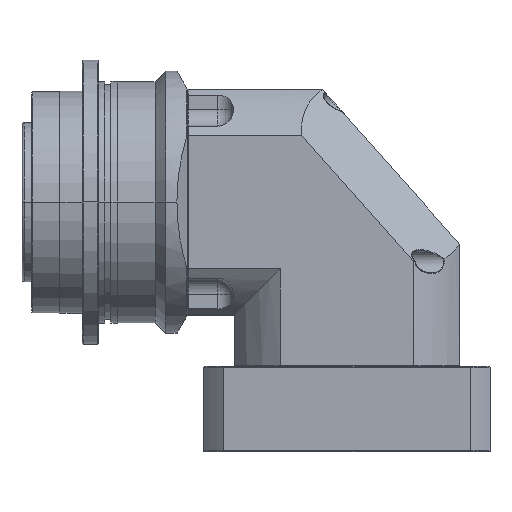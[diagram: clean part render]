
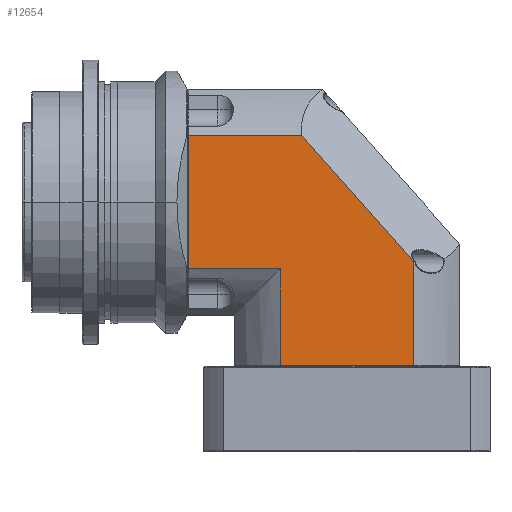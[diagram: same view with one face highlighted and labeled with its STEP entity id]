
A CAD part, top view. The second image highlights one B-rep face of the part: STEP entity #12654.
In plain terms, the highlighted planar face has unit normal (0, 0, 1).
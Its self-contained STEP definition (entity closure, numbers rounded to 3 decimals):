
#190 = VECTOR ( 'NONE', #5766, 1000. ) ;
#292 = DIRECTION ( 'NONE',  ( -1., 0., 0. ) ) ;
#388 = PLANE ( 'NONE',  #9574 ) ;
#499 = DIRECTION ( 'NONE',  ( 0., 0., -1. ) ) ;
#514 = VECTOR ( 'NONE', #3467, 1000. ) ;
#592 = CARTESIAN_POINT ( 'NONE',  ( -564.624, -2.157, 346.5 ) ) ;
#670 = DIRECTION ( 'NONE',  ( 0., -1., 0. ) ) ;
#934 = CARTESIAN_POINT ( 'NONE',  ( 73.539, 2.332, 346.5 ) ) ;
#1061 = VECTOR ( 'NONE', #15316, 1000. ) ;
#1077 = VECTOR ( 'NONE', #292, 1000. ) ;
#1331 = LINE ( 'NONE', #9505, #190 ) ;
#1620 = ORIENTED_EDGE ( 'NONE', *, *, #3230, .F. ) ;
#1928 = CARTESIAN_POINT ( 'NONE',  ( -68.476, 39.858, 346.5 ) ) ;
#2021 = LINE ( 'NONE', #592, #3671 ) ;
#2383 = VERTEX_POINT ( 'NONE', #934 ) ;
#2545 = FACE_OUTER_BOUND ( 'NONE', #8844, .T. ) ;
#2575 = EDGE_CURVE ( 'NONE', #2383, #8543, #12613, .T. ) ;
#2893 = CARTESIAN_POINT ( 'NONE',  ( 31.524, 39.858, 346.5 ) ) ;
#2936 = ORIENTED_EDGE ( 'NONE', *, *, #2575, .F. ) ;
#3230 = EDGE_CURVE ( 'NONE', #9900, #12992, #2021, .T. ) ;
#3295 = CARTESIAN_POINT ( 'NONE',  ( -68.476, -2.157, 346.5 ) ) ;
#3467 = DIRECTION ( 'NONE',  ( 0., 1., 0. ) ) ;
#3472 = LINE ( 'NONE', #10744, #514 ) ;
#3671 = VECTOR ( 'NONE', #7888, 1000. ) ;
#3807 = EDGE_CURVE ( 'NONE', #5694, #12992, #13146, .T. ) ;
#4177 = CARTESIAN_POINT ( 'NONE',  ( -10.49, -63.142, 346.5 ) ) ;
#4536 = CARTESIAN_POINT ( 'NONE',  ( -564.624, 81.873, 346.5 ) ) ;
#4578 = VECTOR ( 'NONE', #670, 1000. ) ;
#5120 = CARTESIAN_POINT ( 'NONE',  ( 73.539, 110.858, 346.5 ) ) ;
#5442 = VERTEX_POINT ( 'NONE', #5516 ) ;
#5516 = CARTESIAN_POINT ( 'NONE',  ( 2.972, 81.873, 346.5 ) ) ;
#5608 = CARTESIAN_POINT ( 'NONE',  ( 73.539, -63.142, 346.5 ) ) ;
#5694 = VERTEX_POINT ( 'NONE', #6335 ) ;
#5766 = DIRECTION ( 'NONE',  ( -0.664, 0.748, 0. ) ) ;
#6335 = CARTESIAN_POINT ( 'NONE',  ( -68.476, 81.873, 346.5 ) ) ;
#7223 = VECTOR ( 'NONE', #8595, 1000. ) ;
#7888 = DIRECTION ( 'NONE',  ( -1., 0., 0. ) ) ;
#8543 = VERTEX_POINT ( 'NONE', #5608 ) ;
#8595 = DIRECTION ( 'NONE',  ( 0., -1., 0. ) ) ;
#8697 = EDGE_CURVE ( 'NONE', #2383, #5442, #1331, .T. ) ;
#8840 = LINE ( 'NONE', #4536, #1061 ) ;
#8844 = EDGE_LOOP ( 'NONE', ( #12041, #11838, #2936, #15035, #9753, #12725, #1620 ) ) ;
#9505 = CARTESIAN_POINT ( 'NONE',  ( 73.539, 2.332, 346.5 ) ) ;
#9574 = AXIS2_PLACEMENT_3D ( 'NONE', #2893, #499, #9984 ) ;
#9753 = ORIENTED_EDGE ( 'NONE', *, *, #12424, .F. ) ;
#9900 = VERTEX_POINT ( 'NONE', #11736 ) ;
#9984 = DIRECTION ( 'NONE',  ( -1., 0., 0. ) ) ;
#10744 = CARTESIAN_POINT ( 'NONE',  ( -10.49, -31.142, 346.5 ) ) ;
#11305 = EDGE_CURVE ( 'NONE', #14265, #9900, #3472, .T. ) ;
#11383 = EDGE_CURVE ( 'NONE', #8543, #14265, #12027, .T. ) ;
#11736 = CARTESIAN_POINT ( 'NONE',  ( -10.49, -2.157, 346.5 ) ) ;
#11838 = ORIENTED_EDGE ( 'NONE', *, *, #11383, .F. ) ;
#12027 = LINE ( 'NONE', #13387, #1077 ) ;
#12041 = ORIENTED_EDGE ( 'NONE', *, *, #11305, .F. ) ;
#12424 = EDGE_CURVE ( 'NONE', #5694, #5442, #8840, .T. ) ;
#12613 = LINE ( 'NONE', #5120, #7223 ) ;
#12654 = ADVANCED_FACE ( 'NONE', ( #2545 ), #388, .F. ) ;
#12725 = ORIENTED_EDGE ( 'NONE', *, *, #3807, .T. ) ;
#12992 = VERTEX_POINT ( 'NONE', #3295 ) ;
#13146 = LINE ( 'NONE', #1928, #4578 ) ;
#13387 = CARTESIAN_POINT ( 'NONE',  ( 16.774, -63.142, 346.5 ) ) ;
#14265 = VERTEX_POINT ( 'NONE', #4177 ) ;
#15035 = ORIENTED_EDGE ( 'NONE', *, *, #8697, .T. ) ;
#15316 = DIRECTION ( 'NONE',  ( 1., 0., 0. ) ) ;
